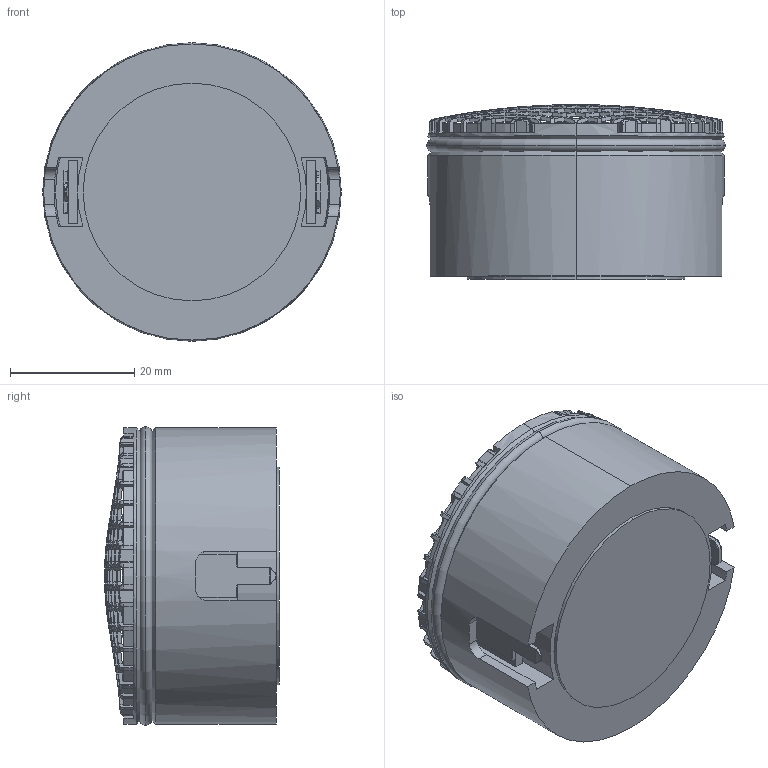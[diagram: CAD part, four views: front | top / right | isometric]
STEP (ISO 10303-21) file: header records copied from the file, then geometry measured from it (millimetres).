
FILE_DESCRIPTION (( 'STEP AP214' ), '1' );
FILE_NAME ('BD020-05-048.STEP', '2021-10-06T10:29:13', ( '' ), ( '' ), 'SwSTEP 2.0', 'SolidWorks 2015', '' );
FILE_SCHEMA (( 'AUTOMOTIVE_DESIGN' ));
Length unit declared in the file: millimetre
Products named in the file (12): TRM_01560; TRM_01559; KRB_01553; TRM_01558; TRM_01557; GIT_01552; KRB_01550; TRM_01464; DM_01434; GWS_01149; BD020-05-048; OHR_01555
Assembly tree (12 placements, depth 3):
  BD020-05-048
    KRB_01553
    KRB_01550
    GIT_01552
    GWS_01149
    DM_01434
    TRM_01558
      TRM_01464
      TRM_01557
    TRM_01560
      TRM_01464
      TRM_01559
    OHR_01555
Bounding box: 48 x 28.1 x 48 mm (x, y, z)
Volume: 29697.4 mm3; surface area: 18631.9 mm2
Topology: 10 solids, 10 shells, 1243 faces, 3542 edges, 2306 vertices
Faces by surface type: plane 917, cylinder 194, torus 50, bspline 48, sphere 20, cone 14
Entity records: 59602 total; most frequent: CARTESIAN_POINT 19088, ORIENTED_EDGE 7036, DIRECTION 4542, EDGE_CURVE 3518, VERTEX_POINT 2298, B_SPLINE_CURVE_WITH_KNOTS 1780, AXIS2_PLACEMENT_3D 1616, EDGE_LOOP 1452
